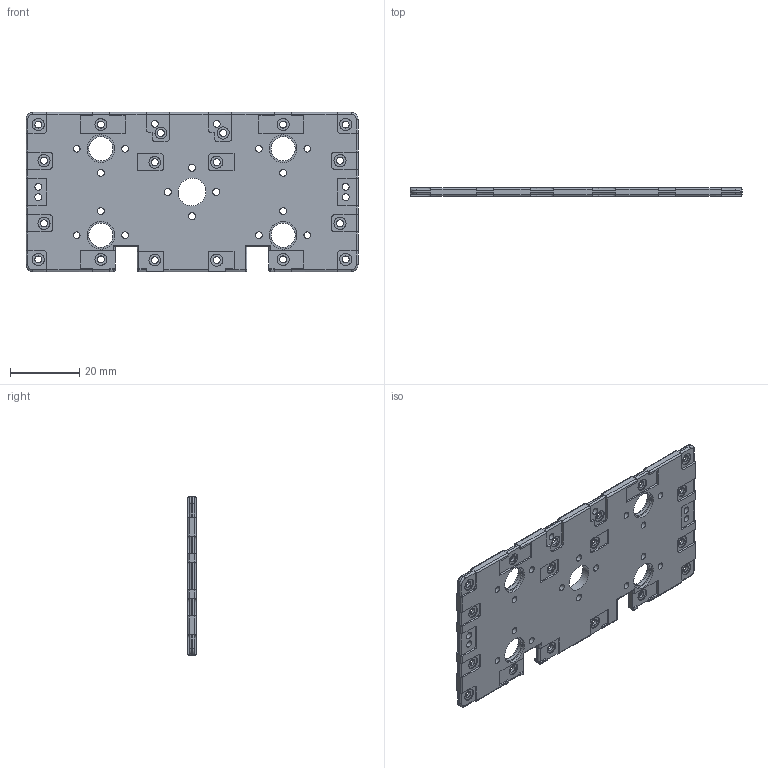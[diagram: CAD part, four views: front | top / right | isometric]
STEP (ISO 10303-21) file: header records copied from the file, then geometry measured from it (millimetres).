
FILE_DESCRIPTION(/* description */ (''),/* implementation_level */ '2;1');
FILE_NAME(/* name */ '[DRB-0001] Front Back',/* time_stamp */ '2012-01-13T11:55:59+09:00',/* author */ (''),/* organization */ (''),/* preprocessor_version */ 'ST-DEVELOPER v10',/* originating_system */ '',/* authorisation */ '');
FILE_SCHEMA (('AUTOMOTIVE_DESIGN_CC2'));
Length unit declared in the file: millimetre
Products named in the file (2): 1; 2
Assembly tree (1 placements, depth 2):
  1
    2
Bounding box: 96 x 2.5 x 46 mm (x, y, z)
Volume: 8985.4 mm3; surface area: 9725 mm2
Topology: 1 solids, 1 shells, 616 faces, 1642 edges, 1068 vertices
Faces by surface type: bspline 354, plane 262
Entity records: 18902 total; most frequent: CARTESIAN_POINT 8998, ORIENTED_EDGE 3268, EDGE_CURVE 1634, VERTEX_POINT 1068, B_SPLINE_CURVE_WITH_KNOTS 966, EDGE_LOOP 754, ADVANCED_FACE 616, FACE_OUTER_BOUND 616
